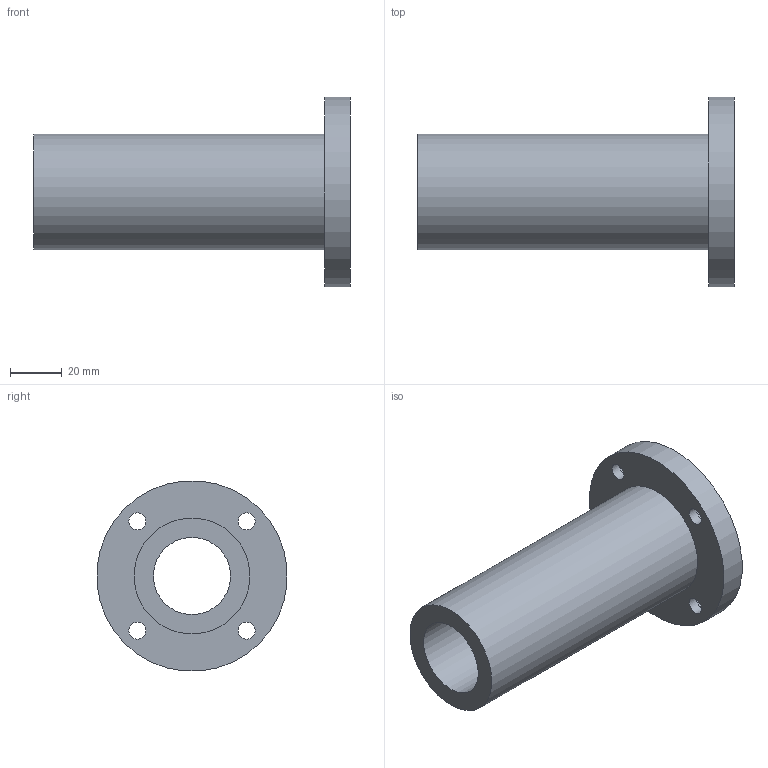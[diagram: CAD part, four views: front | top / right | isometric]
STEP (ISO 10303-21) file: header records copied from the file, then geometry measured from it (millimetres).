
FILE_DESCRIPTION(/* description */ (''),/* implementation_level */ '2;1');
FILE_NAME(/* name */ 'LMF30LUU',/* time_stamp */ '2019-07-03T10:03:03+02:00',/* author */ ('VĂ©gh MĂˇtĂ©'),/* organization */ ('Bearing Kft'),/* preprocessor_version */ 'ST-DEVELOPER v16.7',/* originating_system */ 'DEX',/* authorisation */ $);
FILE_SCHEMA (('AUTOMOTIVE_DESIGN {1 0 10303 214 3 1 1}'));
Length unit declared in the file: millimetre
Products named in the file (1): LMF30LUU
Bounding box: 123 x 73.72 x 73.72 mm (x, y, z)
Volume: 132922.3 mm3; surface area: 38007.7 mm2
Topology: 1 solids, 1 shells, 323 faces, 807 edges, 538 vertices
Faces by surface type: plane 249, bspline 61, cylinder 13
Full cylindrical faces by diameter (mm): 6.6 x4, 11 x4, 30 x1, 45 x1, 74 x1
Entity records: 12709 total; most frequent: CARTESIAN_POINT 5364, ORIENTED_EDGE 1586, DIRECTION 1223, EDGE_CURVE 793, LINE 645, VECTOR 645, VERTEX_POINT 538, EDGE_LOOP 399
